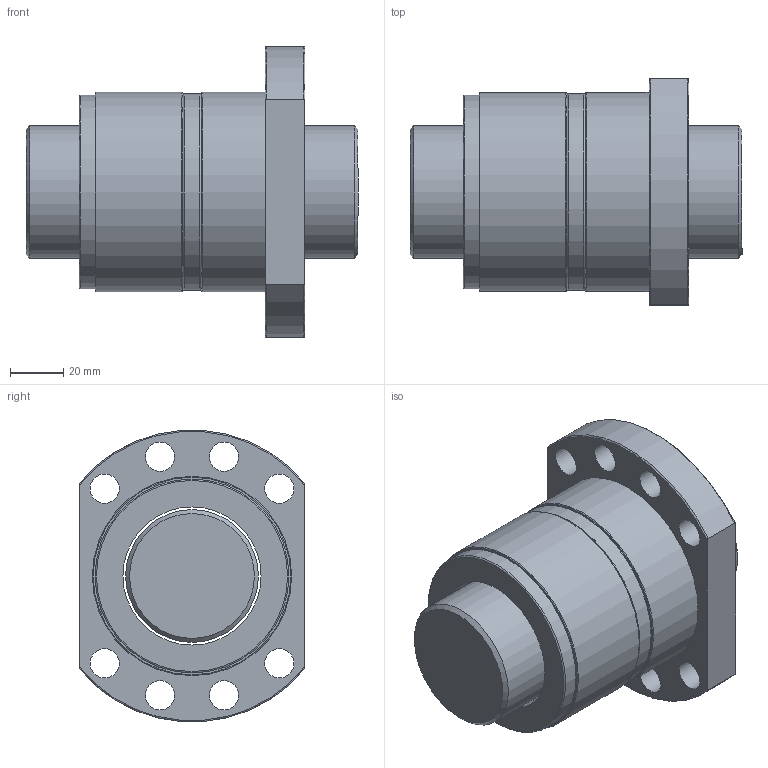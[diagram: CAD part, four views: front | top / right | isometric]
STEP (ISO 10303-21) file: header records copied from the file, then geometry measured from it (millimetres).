
FILE_DESCRIPTION(/* description */ (''),/* implementation_level */ '2;1');
FILE_NAME(/* name */ 'DFS5005',/* time_stamp */ '2007-10-26T13:51:55+08:00',/* author */ (''),/* organization */ (''),/* preprocessor_version */ 'ST-DEVELOPER v9',/* originating_system */ 'UGS - NX 3.0',/* authorisation */ '');
FILE_SCHEMA (('CONFIG_CONTROL_DESIGN'));
Length unit declared in the file: millimetre
Products named in the file (1): jaso15A4i33a
Bounding box: 125 x 85 x 109.65 mm (x, y, z)
Volume: 483383 mm3; surface area: 93213.2 mm2
Topology: 6 solids, 6 shells, 51 faces, 102 edges, 65 vertices
Faces by surface type: cylinder 22, plane 16, torus 11, cone 2
Full cylindrical faces by diameter (mm): 11 x8, 50 x1, 52 x5, 73 x2, 74 x1, 75 x3
Entity records: 1452 total; most frequent: CARTESIAN_POINT 334, DIRECTION 226, ORIENTED_EDGE 146, AXIS2_PLACEMENT_3D 109, EDGE_LOOP 108, FACE_BOUND 84, EDGE_CURVE 73, VERTEX_POINT 65
